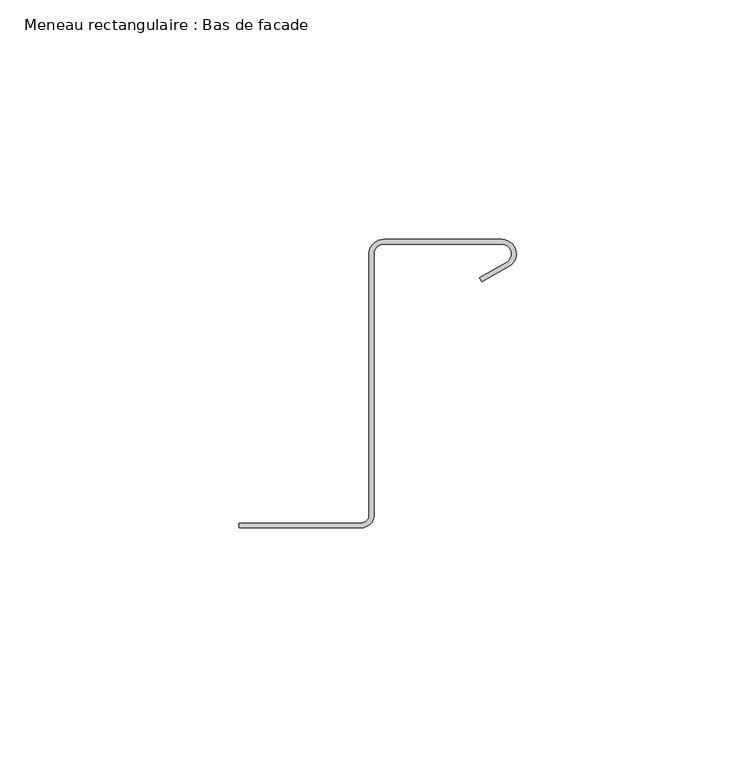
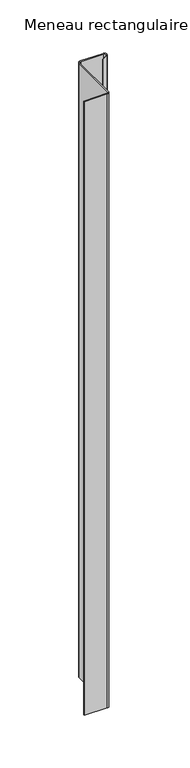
"""IFC4 building model written with IfcOpenShell, lengths in millimetres: member geometry, Meneau rectangulaire : Bas de facade."""

import ifcopenshell
import ifcopenshell.guid

model = None  # the IFC model being written
_history = None  # IfcOwnerHistory: only IFC2X3 demands one
_inside = {}  # id of a spatial element -> (the spatial element, [elements in it])
_under = {}  # id of a project, library or spatial element -> (it, [spatial elements below it])
_declared = {}  # id of a project -> (the project, [libraries it declares])
_typed = {}  # id of a type object -> (the type object, [elements of that type])
_made_of = {}  # id of a material, layer set ... -> (it, [elements and type objects made of it])


def new_model(schema):
    """Start an empty IFC model of exactly this schema.

    Asked for "IFC4X3", IfcOpenShell would pick the latest addendum, in which some entities
    have other attributes; the version numbers below select the first issue.
    IFC2X3 requires an IfcOwnerHistory on every rooted entity: one is made here for all.
    """
    global model, _history
    if schema == "IFC4X3":
        model = ifcopenshell.file(schema_version=(4, 3, 0, 0))
    else:
        model = ifcopenshell.file(schema=schema)
    _inside.clear()
    _under.clear()
    _declared.clear()
    _typed.clear()
    _made_of.clear()
    _history = None
    if model.schema == "IFC2X3":
        org = make("IfcOrganization", Name="unknown")
        user = make(
            "IfcPersonAndOrganization",
            ThePerson=make("IfcPerson", FamilyName="unknown"),
            TheOrganization=org,
        )
        app = make(
            "IfcApplication",
            ApplicationDeveloper=org,
            Version="unknown",
            ApplicationFullName="unknown",
            ApplicationIdentifier="unknown",
        )
        _history = make(
            "IfcOwnerHistory",
            OwningUser=user,
            OwningApplication=app,
            ChangeAction="ADDED",
            CreationDate=0,
        )
    return model


def make(cls, **values):
    """One entity of the class cls with the attributes given. An attribute that is None is left unset."""
    return model.create_entity(
        cls, **{name: value for name, value in values.items() if value is not None}
    )


def rooted(cls, **values):
    """An entity with a GlobalId (a new one), such as an element, a storey or a relation."""
    return make(cls, GlobalId=ifcopenshell.guid.new(), OwnerHistory=_history, **values)


def si_unit(unit_type, name, prefix=None):
    """IfcSIUnit, for example si_unit("LENGTHUNIT", "METRE", prefix="MILLI")."""
    return make("IfcSIUnit", UnitType=unit_type, Prefix=prefix, Name=name)


def assignment(units):
    """IfcUnitAssignment: the units of a project."""
    return None if units is None else make("IfcUnitAssignment", Units=units)


def point(xyz):
    """IfcCartesianPoint."""
    return None if xyz is None else make("IfcCartesianPoint", Coordinates=xyz)


def direction(xyz):
    """IfcDirection."""
    return None if xyz is None else make("IfcDirection", DirectionRatios=xyz)


def frame(location, z_axis=None, x_axis=None):
    """IfcAxis2Placement3D, a coordinate frame: its origin and axes. An axis left out is left unset."""
    return make(
        "IfcAxis2Placement3D",
        Location=point(location),
        Axis=direction(z_axis),
        RefDirection=direction(x_axis),
    )


def frame_2d(location, x_axis=None):
    """IfcAxis2Placement2D, a coordinate frame in the plane: its origin and x axis."""
    return make(
        "IfcAxis2Placement2D", Location=point(location), RefDirection=direction(x_axis)
    )


def origin():
    """The frame at (0, 0, 0) with its axes left unset."""
    return frame((0.0, 0.0, 0.0))


def place(relative_to, where):
    """IfcLocalPlacement: puts the frame where relative to a parent placement (None: the world)."""
    return make(
        "IfcLocalPlacement", PlacementRelTo=relative_to, RelativePlacement=where
    )


def context(
    kind, dimensions, precision=None, world=None, true_north=None, identifier=None
):
    """IfcGeometricRepresentationContext, for example the 3D "Model" context."""
    return make(
        "IfcGeometricRepresentationContext",
        ContextIdentifier=identifier,
        ContextType=kind,
        CoordinateSpaceDimension=dimensions,
        Precision=precision,
        WorldCoordinateSystem=world,
        TrueNorth=true_north,
    )


def project(units=None, contexts=None):
    """IfcProject with its units and contexts."""
    return rooted(
        "IfcProject",
        Name="project",
        RepresentationContexts=contexts,
        UnitsInContext=assignment(units),
    )


def spatial(cls, under=None, at=None, **own):
    """A site, building, storey or space (cls), placed at a placement, below another one or the project."""
    s = rooted(cls, ObjectPlacement=at, **own)
    if under is not None:
        _under.setdefault(under.id(), (under, []))[1].append(s)
    return s


def polyline(points):
    """IfcPolyline through the points."""
    return make("IfcPolyline", Points=[point(p) for p in points])


def circle_curve(where, radius):
    """IfcCircle in the frame where."""
    return make("IfcCircle", Position=where, Radius=radius)


def trimmed(basis, trim1, trim2, sense, master):
    """IfcTrimmedCurve: the piece of a basis curve between two trims."""
    return make(
        "IfcTrimmedCurve",
        BasisCurve=basis,
        Trim1=trim1,
        Trim2=trim2,
        SenseAgreement=sense,
        MasterRepresentation=master,
    )


def segment(curve, same_sense, transition):
    """IfcCompositeCurveSegment."""
    return make(
        "IfcCompositeCurveSegment",
        Transition=transition,
        SameSense=same_sense,
        ParentCurve=curve,
    )


def composite_curve(segments, self_intersect=None):
    """IfcCompositeCurve: segments joined end to end."""
    return make("IfcCompositeCurve", Segments=segments, SelfIntersect=self_intersect)


def outline(outer, holes=None, kind="AREA"):
    """IfcArbitraryClosedProfileDef: a profile drawn as a closed curve; with holes, ...WithVoids."""
    if holes is None:
        return make("IfcArbitraryClosedProfileDef", ProfileType=kind, OuterCurve=outer)
    return make(
        "IfcArbitraryProfileDefWithVoids",
        ProfileType=kind,
        OuterCurve=outer,
        InnerCurves=holes,
    )


def extrude(swept, where, along, depth):
    """IfcExtrudedAreaSolid: the profile swept, set in the frame where, extruded along a direction by depth."""
    return make(
        "IfcExtrudedAreaSolid",
        SweptArea=swept,
        Position=where,
        ExtrudedDirection=direction(along),
        Depth=depth,
    )


def shape(context_of_items, identifier, shape_type, items):
    """IfcShapeRepresentation: the items that make up one representation, for example the "Body"."""
    return make(
        "IfcShapeRepresentation",
        ContextOfItems=context_of_items,
        RepresentationIdentifier=identifier,
        RepresentationType=shape_type,
        Items=items,
    )


def source(mapping_origin, context_of_items, identifier, shape_type, items):
    """IfcRepresentationMap: a shape defined once, which mapped items show again and again."""
    return make(
        "IfcRepresentationMap",
        MappingOrigin=mapping_origin,
        MappedRepresentation=shape(context_of_items, identifier, shape_type, items),
    )


def transform(
    local_origin,
    x_axis=None,
    y_axis=None,
    z_axis=None,
    scale=None,
    scale2=None,
    scale3=None,
    uniform=True,
):
    """IfcCartesianTransformationOperator3D, or its non-uniform kind. x_axis, y_axis, z_axis: its Axis1, 2, 3."""
    if uniform:
        return make(
            "IfcCartesianTransformationOperator3D",
            Axis1=direction(x_axis),
            Axis2=direction(y_axis),
            LocalOrigin=point(local_origin),
            Scale=scale,
            Axis3=direction(z_axis),
        )
    return make(
        "IfcCartesianTransformationOperator3DnonUniform",
        Axis1=direction(x_axis),
        Axis2=direction(y_axis),
        LocalOrigin=point(local_origin),
        Scale=scale,
        Axis3=direction(z_axis),
        Scale2=scale2,
        Scale3=scale3,
    )


def mapped(mapping_source, mapping_target):
    """IfcMappedItem: shows the shape of a source again, moved by a transform."""
    return make(
        "IfcMappedItem", MappingSource=mapping_source, MappingTarget=mapping_target
    )


def made_of(thing, what):
    """Note that an element or type object is made of a material, layer set ...; save() writes the relation."""
    if what is not None:
        _made_of.setdefault(what.id(), (what, []))[1].append(thing)
    return thing


def element(
    cls,
    number,
    at=None,
    inside=None,
    cuts=None,
    type_object=None,
    material=None,
    context=None,
    identifier="Body",
    shape_type=None,
    held_by="IfcProductDefinitionShape",
    body=None,
    shapes=None,
    **own,
):
    """One element of the class cls, such as IfcWall. Its Tag is "e" and its number.

    at: its placement. inside: the storey or other place that contains it. cuts: it is an
    opening in that element (IfcRelVoidsElement). A single representation is given by context,
    identifier, shape_type and body (its items); several are given by shapes. held_by: the class
    of the entity that holds the representations. save() writes the other relations.
    """
    e = rooted(cls, Tag="e%d" % number, ObjectPlacement=at, **own)
    if body is not None:
        shapes = [shape(context, identifier, shape_type, body)]
    if shapes is not None:
        e.Representation = make(held_by, Representations=shapes)
    if inside is not None:
        _inside.setdefault(inside.id(), (inside, []))[1].append(e)
    if cuts is not None:
        rooted(
            "IfcRelVoidsElement", RelatingBuildingElement=cuts, RelatedOpeningElement=e
        )
    if type_object is not None:
        _typed.setdefault(type_object.id(), (type_object, []))[1].append(e)
    return made_of(e, material)


def aggregate(whole, parts):
    """IfcRelAggregates: a whole, such as a stair, and the parts it consists of."""
    return rooted("IfcRelAggregates", RelatingObject=whole, RelatedObjects=parts)


def save(model, path):
    """Write the relations noted so far, then the file.

    IfcRelAggregates (storeys below a building ...), IfcRelContainedInSpatialStructure (elements
    in a storey), IfcRelDefinesByType, IfcRelAssociatesMaterial and IfcRelDeclares: one each for
    every whole, place, type object, material and project.
    """
    for whole, parts in _under.values():
        aggregate(whole, parts)
    for where, things in _inside.values():
        rooted(
            "IfcRelContainedInSpatialStructure",
            RelatedElements=things,
            RelatingStructure=where,
        )
    for kind, things in _typed.values():
        rooted("IfcRelDefinesByType", RelatedObjects=things, RelatingType=kind)
    for what, things in _made_of.values():
        rooted("IfcRelAssociatesMaterial", RelatedObjects=things, RelatingMaterial=what)
    for by, libraries in _declared.values():
        rooted("IfcRelDeclares", RelatingContext=by, RelatedDefinitions=libraries)
    model.write(path)


def meneau_rectangulaire_bas_de_facade_98fc15e4(model_context):
    return source(origin(), model_context, "Body", "SweptSolid", [
        extrude(outline(composite_curve([segment(polyline([(-32.4584179, -2.9588923), (-57.8548383, -2.9588923), (-57.8548383, -1.9588923), (-32.4584179, -1.9588923)]), True, "CONTINUOUS"), segment(trimmed(circle_curve(frame_2d((-32.4584179, -0.2088923)), 1.75), [point((-32.4584179, -1.9588923))], [point((-30.7239521, -0.4415475))], True, "CARTESIAN"), True, "CONTINUOUS"), segment(polyline([(-30.7239521, -0.4415475), (-30.7239521, 54.522067)]), True, "CONTINUOUS"), segment(trimmed(circle_curve(frame_2d((-27.735368, 54.2605998)), 3.0), [point((-30.7239521, 54.522067))], [point((-27.735368, 57.2605998))], False, "CARTESIAN"), True, "CONTINUOUS"), segment(polyline([(-27.735368, 57.2605998), (-3.0, 57.2605998)]), True, "CONTINUOUS"), segment(trimmed(circle_curve(frame_2d((-3.0, 54.2605998)), 3.0), [point((-3.0, 57.2605998))], [point((-1.5, 51.6625235))], False, "CARTESIAN"), True, "CONTINUOUS"), segment(polyline([(-1.5, 51.6625235), (-7.1638061, 48.3925235), (-7.6638061, 49.258549), (-2.0, 52.528549)]), True, "CONTINUOUS"), segment(trimmed(circle_curve(frame_2d((-3.0, 54.2605998)), 2.0), [point((-2.0, 52.528549))], [point((-3.0, 56.2605998))], True, "CARTESIAN"), True, "CONTINUOUS"), segment(polyline([(-3.0, 56.2605998), (-27.735368, 56.2605998)]), True, "CONTINUOUS"), segment(trimmed(circle_curve(frame_2d((-27.735368, 54.2605998)), 2.0), [point((-27.735368, 56.2605998))], [point((-29.7143802, 54.5495817))], True, "CARTESIAN"), True, "CONTINUOUS"), segment(polyline([(-29.7143802, 54.5495817), (-29.7143802, -0.3898824)]), True, "CONTINUOUS"), segment(trimmed(circle_curve(frame_2d((-32.4584179, -0.2088923)), 2.75), [point((-29.7143802, -0.3898824))], [point((-32.4584179, -2.9588923))], False, "CARTESIAN"), True, "CONTINUOUS")], self_intersect=False)), frame((0.0, 0.0, -712.0), z_axis=(0.0, 0.0, 1.0), x_axis=(1.0, 0.0, 0.0)), (0.0, 0.0, 1.0), 712.0),
    ])


if __name__ == "__main__":
    model = new_model("IFC4")
    model_context = context("Model", 3, world=origin())
    ifc_project = project(units=[si_unit("LENGTHUNIT", "METRE", prefix="MILLI")], contexts=[model_context])
    site = spatial("IfcSite", under=ifc_project)
    building = spatial("IfcBuilding", under=site)
    placement = place(None, origin())
    meneau_rectangulaire_bas_de_facade_shape = meneau_rectangulaire_bas_de_facade_98fc15e4(model_context)
    element("IfcMember", 1, ObjectType="Meneau rectangulaire : Bas de facade", at=placement, inside=building, context=model_context, shape_type="MappedRepresentation", body=[
        mapped(meneau_rectangulaire_bas_de_facade_shape, transform((0.0, 0.0, 0.0), x_axis=(1.0, 0.0, 0.0), y_axis=(0.0, 1.0, 0.0), z_axis=(0.0, 0.0, 1.0))),
    ])
    save(model, "model.ifc")
